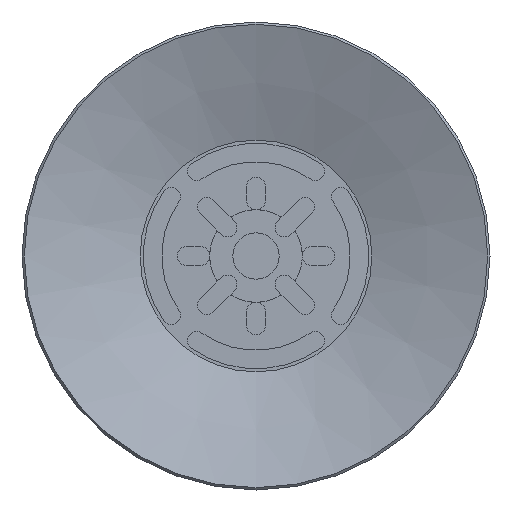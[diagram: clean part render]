
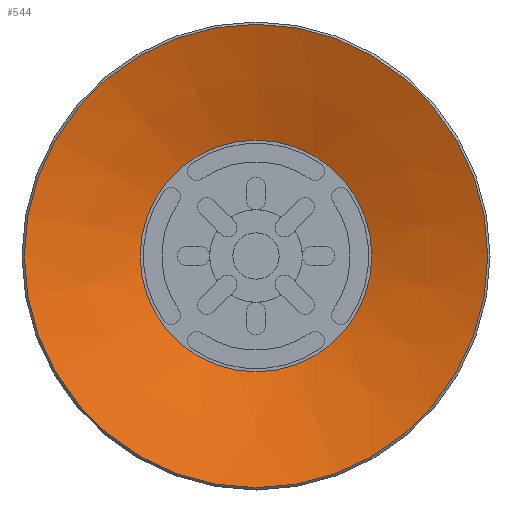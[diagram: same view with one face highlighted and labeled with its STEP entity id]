
A CAD part, front view. The second image highlights one B-rep face of the part: STEP entity #544.
In plain terms, the highlighted conical face has half-angle 70.201 degrees and reference radius 7.5 mm.
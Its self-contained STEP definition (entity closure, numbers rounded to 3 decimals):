
#544=ADVANCED_FACE('',(#914,#915),#916,.F.);
#914=FACE_BOUND('',#1320,.T.);
#915=FACE_OUTER_BOUND('',#1321,.T.);
#916=CONICAL_SURFACE('',#1322,7.5,1.225);
#1320=EDGE_LOOP('',(#2452));
#1321=EDGE_LOOP('',(#2453));
#1322=AXIS2_PLACEMENT_3D('',#2454,#2455,#2456);
#2452=ORIENTED_EDGE('',*,*,#2974,.F.);
#2453=ORIENTED_EDGE('',*,*,#2906,.T.);
#2454=CARTESIAN_POINT('',(0.0,0.0,2.7));
#2455=DIRECTION('',(0.0,0.,-1.0));
#2456=DIRECTION('',(0.0,1.0,0.));
#2906=EDGE_CURVE('',#3462,#3462,#3463,.T.);
#2974=EDGE_CURVE('',#3578,#3578,#3579,.T.);
#3462=VERTEX_POINT('',#4587);
#3463=CIRCLE('',#4588,15.0);
#3578=VERTEX_POINT('',#4727);
#3579=CIRCLE('',#4728,7.5);
#4587=CARTESIAN_POINT('',(0.0,15.0,0.));
#4588=AXIS2_PLACEMENT_3D('',#5229,#5230,#5231);
#4727=CARTESIAN_POINT('',(0.0,7.5,2.7));
#4728=AXIS2_PLACEMENT_3D('',#5385,#5386,#5387);
#5229=CARTESIAN_POINT('',(0.0,0.0,0.0));
#5230=DIRECTION('',(0.0,0.,-1.0));
#5231=DIRECTION('',(0.0,1.0,0.));
#5385=CARTESIAN_POINT('',(0.0,0.0,2.7));
#5386=DIRECTION('',(0.0,0.,-1.0));
#5387=DIRECTION('',(0.0,1.0,0.));
